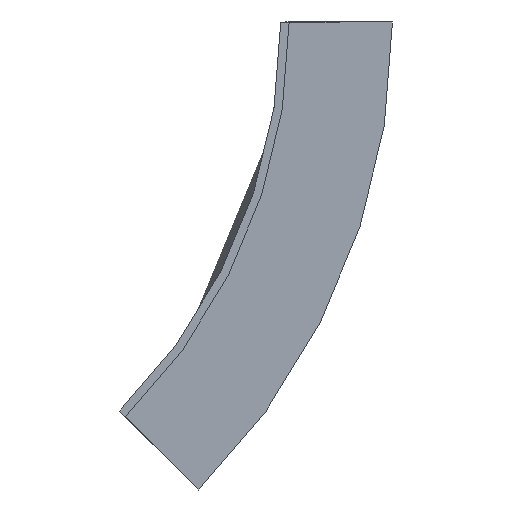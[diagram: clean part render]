
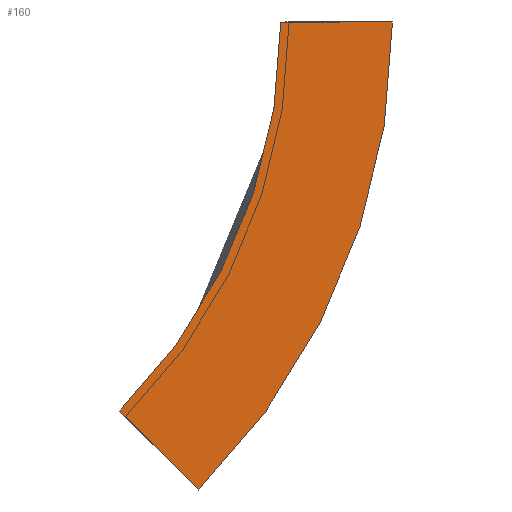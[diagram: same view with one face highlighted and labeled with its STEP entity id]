
A CAD part, left-side view. The second image highlights one B-rep face of the part: STEP entity #160.
In plain terms, the highlighted planar face has unit normal (-1, 0, 0).
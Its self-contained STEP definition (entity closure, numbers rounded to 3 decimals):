
#17 = ORIENTED_EDGE ( 'NONE', *, *, #292, .F. ) ;
#24 = DIRECTION ( 'NONE',  ( 0., 0., -1. ) ) ;
#25 = CARTESIAN_POINT ( 'NONE',  ( -253.5, 28.85, -69.65 ) ) ;
#29 = DIRECTION ( 'NONE',  ( 1., 0., 0. ) ) ;
#62 = VERTEX_POINT ( 'NONE', #25 ) ;
#86 = CIRCLE ( 'NONE', #199, 118.5 ) ;
#100 = VERTEX_POINT ( 'NONE', #414 ) ;
#114 = ORIENTED_EDGE ( 'NONE', *, *, #278, .F. ) ;
#127 = CARTESIAN_POINT ( 'NONE',  ( -253.5, 14.708, -83.792 ) ) ;
#145 = ORIENTED_EDGE ( 'NONE', *, *, #481, .F. ) ;
#160 = ADVANCED_FACE ( 'NONE', ( #392 ), #563, .T. ) ;
#167 = VECTOR ( 'NONE', #344, 1000. ) ;
#197 = AXIS2_PLACEMENT_3D ( 'NONE', #396, #345, #568 ) ;
#199 = AXIS2_PLACEMENT_3D ( 'NONE', #365, #29, #24 ) ;
#234 = DIRECTION ( 'NONE',  ( -1., 0., 0. ) ) ;
#240 = EDGE_CURVE ( 'NONE', #100, #309, #86, .T. ) ;
#278 = EDGE_CURVE ( 'NONE', #309, #62, #541, .T. ) ;
#287 = CARTESIAN_POINT ( 'NONE',  ( -253.5, 14.708, -83.792 ) ) ;
#292 = EDGE_CURVE ( 'NONE', #62, #504, #454, .T. ) ;
#295 = AXIS2_PLACEMENT_3D ( 'NONE', #553, #234, #416 ) ;
#299 = CARTESIAN_POINT ( 'NONE',  ( -253.5, 0., 0. ) ) ;
#309 = VERTEX_POINT ( 'NONE', #287 ) ;
#315 = DIRECTION ( 'NONE',  ( 0., 0.707, 0.707 ) ) ;
#339 = EDGE_LOOP ( 'NONE', ( #114, #352, #145, #17 ) ) ;
#344 = DIRECTION ( 'NONE',  ( 0., -1., 0. ) ) ;
#345 = DIRECTION ( 'NONE',  ( -1., 0., 0. ) ) ;
#352 = ORIENTED_EDGE ( 'NONE', *, *, #240, .F. ) ;
#365 = CARTESIAN_POINT ( 'NONE',  ( -253.5, 98.5, 0. ) ) ;
#392 = FACE_OUTER_BOUND ( 'NONE', #339, .T. ) ;
#396 = CARTESIAN_POINT ( 'NONE',  ( -253.5, 98.5, 0. ) ) ;
#414 = CARTESIAN_POINT ( 'NONE',  ( -253.5, -20., 0. ) ) ;
#416 = DIRECTION ( 'NONE',  ( 0., 0., 1. ) ) ;
#454 = CIRCLE ( 'NONE', #295, 98.5 ) ;
#473 = CARTESIAN_POINT ( 'NONE',  ( -253.5, 0., 0. ) ) ;
#481 = EDGE_CURVE ( 'NONE', #504, #100, #557, .T. ) ;
#504 = VERTEX_POINT ( 'NONE', #473 ) ;
#541 = LINE ( 'NONE', #127, #552 ) ;
#552 = VECTOR ( 'NONE', #315, 1000. ) ;
#553 = CARTESIAN_POINT ( 'NONE',  ( -253.5, 98.5, 0. ) ) ;
#557 = LINE ( 'NONE', #299, #167 ) ;
#563 = PLANE ( 'NONE',  #197 ) ;
#568 = DIRECTION ( 'NONE',  ( 0., 0., 1. ) ) ;
